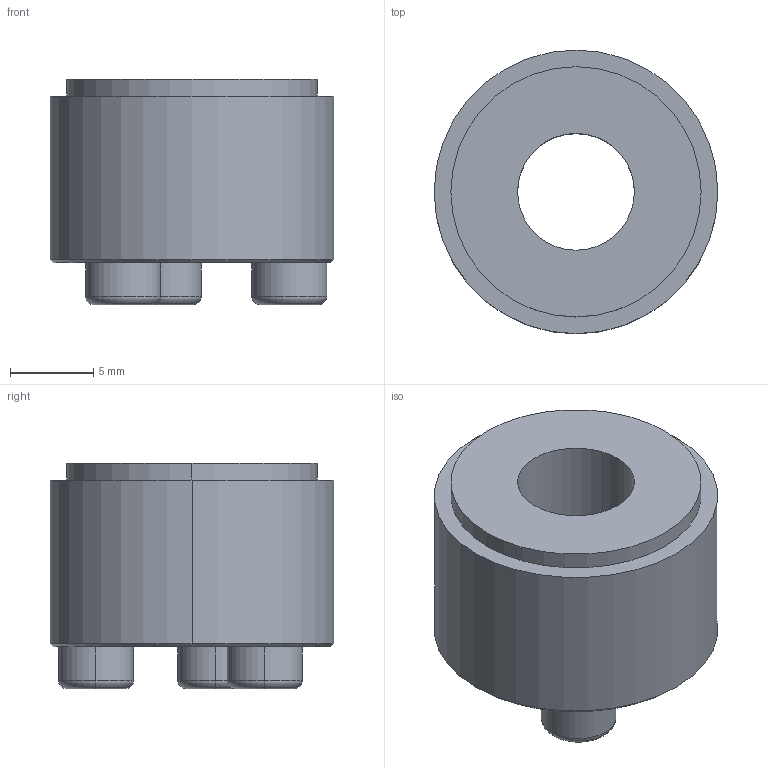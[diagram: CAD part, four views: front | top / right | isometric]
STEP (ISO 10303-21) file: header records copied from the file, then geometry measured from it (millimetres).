
FILE_DESCRIPTION (( 'STEP AP203' ), '1' );
FILE_NAME ('PL-B 7-17.STEP', '2021-10-22T07:43:57', ( '' ), ( '' ), 'SwSTEP 2.0', 'SolidWorks 2018', '' );
FILE_SCHEMA (( 'CONFIG_CONTROL_DESIGN' ));
Length unit declared in the file: millimetre
Products named in the file (1): PL-B 7-17
Bounding box: 17 x 17 x 13.5 mm (x, y, z)
Volume: 2127.4 mm3; surface area: 1310.7 mm2
Topology: 1 solids, 1 shells, 49 faces, 110 edges, 70 vertices
Faces by surface type: plane 27, cylinder 12, torus 6, cone 4
Entity records: 1445 total; most frequent: DIRECTION 250, CARTESIAN_POINT 230, ORIENTED_EDGE 220, EDGE_CURVE 110, AXIS2_PLACEMENT_3D 90, LINE 70, VERTEX_POINT 70, VECTOR 70
